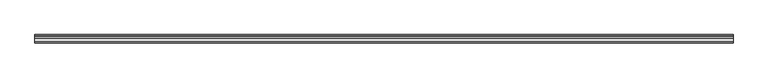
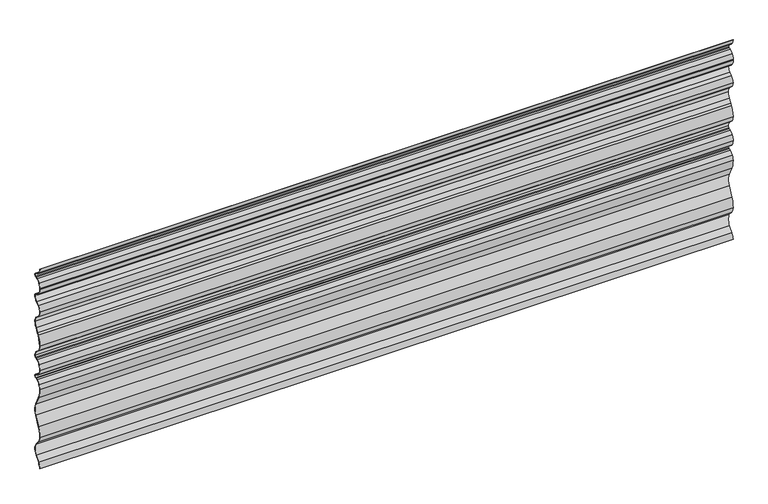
"""IFC4 building model written with IfcOpenShell, lengths in millimetres: plate geometry, Ritmica Horizontal 928 : Ritmica Horizontal 928."""

from ifc_helpers import new_model, si_unit, frame, origin, place, context, project, spatial, polyline, circle_curve, source, transform, mapped, element, save
from ifc_brep_helpers import plane_surface, cylinder_surface, revolved_surface, advanced_brep


def plate_e83ec595(model_context):
    return source(origin(), model_context, "Body", "AdvancedBrep", [
        advanced_brep(
        [(-1524.5, 6.5092615, 908.0620129), (-1524.5, 21.2621067, 895.6153968), (-1524.5, 28.45755, 892.7364297), (-1524.5, 31.9226364, 891.0770661), (-1524.5, 31.9284533, 875.0954695), (-1524.5, 28.4645758, 873.4335839), (-1524.5, 21.2712303, 870.5493796), (-1524.5, 6.5274495, 858.0920274), (-1524.5, 0.7421798, 836.9983174), (-1524.5, 0.7421798, 831.6596456), (-1524.5, 6.5447465, 810.5701527), (-1524.5, 21.2975918, 798.1235366), (-1524.5, 28.493035, 795.2445695), (-1524.5, 31.9581214, 793.5852059), (-1524.5, 36.9921573, 785.5962388), (-1524.5, 24.9656186, 760.6206134), (-1524.5, 12.9828956, 751.0704574), (-1524.5, 1.0048783, 728.5919745), (-1524.5, 13.0090533, 701.127971), (-1524.5, 24.9992939, 690.0241978), (-1524.5, 37.0440106, 665.0573339), (-1524.5, 28.6299997, 638.3240963), (-1524.5, 17.4991449, 620.9910926), (-1524.5, 13.1043036, 613.5575548), (-1524.5, 0.921776, 569.3793833), (-1524.5, 12.9259511, 541.9153798), (-1524.5, 24.9161915, 530.8116067), (-1524.5, 36.9609087, 505.8415328), (-1524.5, 31.9326896, 497.8521133), (-1524.5, 28.4688119, 496.1902275), (-1524.5, 21.2754341, 493.3060102), (-1524.5, 6.5316868, 480.8486726), (-1524.5, 0.8337564, 457.0856569), (-1524.5, 6.3430179, 437.5469103), (-1524.5, 21.0958632, 425.1002943), (-1524.5, 28.2913064, 422.2213272), (-1524.5, 31.7563928, 420.5619636), (-1524.5, 31.7622098, 404.580367), (-1524.5, 28.2983323, 402.9184814), (-1524.5, 21.1049867, 400.034277), (-1524.5, 6.361206, 387.5769248), (-1524.5, 0.8661693, 368.0341733), (-1524.5, 10.0476711, 324.2892209), (-1524.5, 30.4443377, 283.7581494), (-1524.5, 30.4639577, 229.8542794), (-1524.5, 10.0968014, 189.3083707), (-1524.5, 0.9471466, 145.5567461), (-1524.5, 9.5590077, 121.7925982), (-1524.5, 28.254799, 99.3683726), (-1524.5, 28.274038, 46.5109184), (-1524.5, 9.5945757, 23.7707747), (-1524.5, 1.0000163, 0.0), (-1524.5, 1.63e-05, 0.0), (-1524.5, 8.826039, 24.4105804), (-1524.5, 27.4885473, 47.1303588), (-1524.5, 27.4697594, 98.7483605), (-1524.5, 8.790937, 121.1522332), (-1524.5, -0.0528427, 145.5386154), (-1524.5, 9.1993025, 189.7494732), (-1524.5, 29.5703625, 230.3031531), (-1524.5, 29.5510695, 283.3086253), (-1524.5, 9.1504935, 323.8474651), (-1524.5, -0.133833, 368.0515751), (-1524.5, 5.5079347, 388.0983921), (-1524.5, 20.7330524, 400.9625361), (-1524.5, 27.895533, 403.834365), (-1524.5, 31.3296428, 405.4819688), (-1524.5, 31.3244823, 419.6600471), (-1524.5, 27.889174, 421.3051505), (-1524.5, 20.7246046, 424.1717647), (-1524.5, 5.4901265, 437.024822), (-1524.5, -0.1662181, 457.0529178), (-1524.5, 5.6750593, 481.3646468), (-1524.5, 20.9034647, 494.2342551), (-1524.5, 28.0660127, 497.1061111), (-1524.5, 31.5001226, 498.7537151), (-1524.5, 35.9609087, 505.841531), (-1524.5, 24.2645169, 530.052163), (-1524.5, 12.2464871, 541.1816709), (-1524.5, -0.0782183, 569.3680226), (-1524.5, 12.2502128, 614.0778463), (-1524.5, 16.6477304, 621.5159109), (-1524.5, 27.7982686, 638.8795656), (-1524.5, 36.04401, 665.0587755), (-1524.5, 24.3475224, 689.2648438), (-1524.5, 12.3295893, 700.3942621), (-1524.5, 0.0048783, 728.5916105), (-1524.5, 12.391292, 751.8777021), (-1524.5, 24.342358, 761.4026277), (-1524.5, 35.9921573, 785.5958749), (-1524.5, 31.5262109, 792.6832895), (-1524.5, 28.0909026, 794.3283929), (-1524.5, 20.9248539, 797.1955989), (-1524.5, 5.6893168, 810.0521734), (-1524.5, -0.2558769, 831.6592816), (-1524.5, -0.2578202, 836.9981365), (-1524.5, 5.6708241, 858.6080051), (-1524.5, 20.8992959, 871.4776387), (-1524.5, 28.0617766, 874.3494676), (-1524.5, 31.4958863, 875.9970713), (-1524.5, 31.4907258, 890.1751497), (-1524.5, 28.0554176, 891.8202531), (-1524.5, 20.8908482, 894.6868673), (-1524.5, 5.6563701, 907.5399245), (-1524.5, 0.0, 927.600395), (-1524.5, 1.0000001, 927.600395), (1524.5, 6.5092615, 908.0620129), (1524.5, 1.0000001, 927.600395), (1524.5, 0.0, 927.600395), (1524.5, 5.6563701, 907.5399245), (1524.5, 20.8908482, 894.6868673), (1524.5, 28.0554176, 891.8202531), (1524.5, 31.4907258, 890.1751497), (1524.5, 31.4958863, 875.9970713), (1524.5, 28.0617766, 874.3494676), (1524.5, 20.8992959, 871.4776387), (1524.5, 5.6708241, 858.6080051), (1524.5, -0.2578202, 836.9981365), (1524.5, -0.2578202, 831.6596456), (1524.5, 5.6893168, 810.0521734), (1524.5, 20.9248539, 797.1955989), (1524.5, 28.0909026, 794.3283929), (1524.5, 31.5262109, 792.6832895), (1524.5, 35.9921573, 785.5958749), (1524.5, 24.342358, 761.4026277), (1524.5, 12.391292, 751.8777021), (1524.5, 0.0048783, 728.5916105), (1524.5, 12.3295893, 700.3942621), (1524.5, 24.3475224, 689.2648438), (1524.5, 36.04401, 665.0587755), (1524.5, 27.7982686, 638.8795656), (1524.5, 16.6477304, 621.5159109), (1524.5, 12.2502128, 614.0778463), (1524.5, -0.0782183, 569.3680226), (1524.5, 12.2464871, 541.1816709), (1524.5, 24.2645169, 530.052163), (1524.5, 35.9609087, 505.841531), (1524.5, 31.5001226, 498.7537151), (1524.5, 28.0660127, 497.1061111), (1524.5, 20.9034647, 494.2342551), (1524.5, 5.6750593, 481.3646468), (1524.5, -0.1662181, 457.0529178), (1524.5, 5.4901265, 437.024822), (1524.5, 20.7246046, 424.1717647), (1524.5, 27.889174, 421.3051505), (1524.5, 31.3244823, 419.6600471), (1524.5, 31.3296428, 405.4819688), (1524.5, 27.895533, 403.834365), (1524.5, 20.7330524, 400.9625361), (1524.5, 5.5079347, 388.0983921), (1524.5, -0.133833, 368.0515751), (1524.5, 9.1504935, 323.8474651), (1524.5, 29.5510695, 283.3086253), (1524.5, 29.5703625, 230.3031531), (1524.5, 9.1993025, 189.7494732), (1524.5, -0.0528427, 145.5386154), (1524.5, 8.790937, 121.1522332), (1524.5, 27.4697594, 98.7483605), (1524.5, 27.4885473, 47.1303588), (1524.5, 8.826039, 24.4105804), (1524.5, 1.63e-05, 0.0), (1524.5, 1.0000163, 0.0), (1524.5, 9.5945757, 23.7707747), (1524.5, 28.274038, 46.5109184), (1524.5, 28.254799, 99.3683726), (1524.5, 9.5590077, 121.7925982), (1524.5, 0.9471466, 145.5567461), (1524.5, 10.0968014, 189.3083707), (1524.5, 30.4639577, 229.8542794), (1524.5, 30.4443377, 283.7581494), (1524.5, 10.0476711, 324.2892209), (1524.5, 0.8661693, 368.0341733), (1524.5, 6.361206, 387.5769248), (1524.5, 21.1049867, 400.034277), (1524.5, 28.2983323, 402.9184814), (1524.5, 31.7622098, 404.580367), (1524.5, 31.7563928, 420.5619636), (1524.5, 28.2913064, 422.2213272), (1524.5, 21.0958632, 425.1002943), (1524.5, 6.3430179, 437.5469103), (1524.5, 0.8337564, 457.0856569), (1524.5, 6.5316868, 480.8486726), (1524.5, 21.2754341, 493.3060102), (1524.5, 28.4688119, 496.1902275), (1524.5, 31.9326896, 497.8521133), (1524.5, 36.9609087, 505.8415328), (1524.5, 24.9161915, 530.8116067), (1524.5, 12.9259511, 541.9153798), (1524.5, 0.921776, 569.3793833), (1524.5, 13.1043036, 613.5575548), (1524.5, 17.4991449, 620.9910926), (1524.5, 28.6299997, 638.3240963), (1524.5, 37.0440106, 665.0573339), (1524.5, 24.9992939, 690.0241978), (1524.5, 13.0090533, 701.127971), (1524.5, 1.0048783, 728.5919745), (1524.5, 12.9828956, 751.0704574), (1524.5, 24.9656186, 760.6206134), (1524.5, 36.9921573, 785.5962388), (1524.5, 31.9581214, 793.5852059), (1524.5, 28.493035, 795.2445695), (1524.5, 21.2975918, 798.1235366), (1524.5, 6.5447465, 810.5701527), (1524.5, 0.744123, 831.6596456), (1524.5, 0.7421798, 836.9983174), (1524.5, 6.5274495, 858.0920274), (1524.5, 21.2712303, 870.5493796), (1524.5, 28.4645758, 873.4335839), (1524.5, 31.9284533, 875.0954695), (1524.5, 31.9226364, 891.0770661), (1524.5, 28.45755, 892.7364297), (1524.5, 21.2621067, 895.6153968)],
        [
            (0, 1, circle_curve(frame((-1524.5, 32.6219637, 924.0466233), z_axis=(1.0, 0.0, 0.0), x_axis=(0.0, 0.0, 1.0)), 30.6166783)),
            (1, 2),
            (2, 3),
            (3, 4, circle_curve(frame((-1524.5, 28.0953282, 883.0848737), z_axis=(-1.0, 0.0, 0.0), x_axis=(0.0, 0.0, 1.0)), 8.8613445)),
            (4, 5),
            (5, 6),
            (6, 7, circle_curve(frame((-1524.5, 32.651781, 842.1264302), z_axis=(1.0, 0.0, 0.0), x_axis=(0.0, 0.0, 1.0)), 30.6166783)),
            (7, 8, circle_curve(frame((-1524.5, 42.034972, 837.0133472), z_axis=(1.0, 0.0, 0.0), x_axis=(0.0, 0.0, 1.0)), 41.2927949)),
            (8, 9),
            (9, 10, circle_curve(frame((-1524.5, 42.0369151, 831.6746753), z_axis=(1.0, 0.0, 0.0), x_axis=(0.0, 0.0, 1.0)), 41.2927949)),
            (10, 11, circle_curve(frame((-1524.5, 32.8606059, 826.7955631), z_axis=(1.0, 0.0, 0.0), x_axis=(0.0, 0.0, 1.0)), 30.9158276)),
            (11, 12),
            (12, 13),
            (13, 14, circle_curve(frame((-1524.5, 28.1308133, 785.5930135), z_axis=(-1.0, 0.0, 0.0), x_axis=(0.0, 0.0, 1.0)), 8.8613445)),
            (14, 15, circle_curve(frame((-1524.5, 5.0694602, 785.5846196), z_axis=(-1.0, 0.0, 0.0), x_axis=(0.0, 0.0, 1.0)), 31.9226992)),
            (15, 16),
            (16, 17, circle_curve(frame((-1524.5, 28.0674647, 728.6018247), z_axis=(1.0, 0.0, 0.0), x_axis=(0.0, 0.0, 1.0)), 27.0625882)),
            (17, 18, circle_curve(frame((-1524.5, 38.4552002, 728.6056057), z_axis=(1.0, 0.0, 0.0), x_axis=(0.0, 0.0, 1.0)), 37.4503244)),
            (18, 19),
            (19, 20, circle_curve(frame((-1524.5, 5.1213136, 665.0457146), z_axis=(-1.0, 0.0, 0.0), x_axis=(0.0, 0.0, 1.0)), 31.9226992)),
            (20, 21, circle_curve(frame((-1524.5, -10.1198118, 665.2109304), z_axis=(-1.0, 0.0, 0.0), x_axis=(0.0, 0.0, 1.0)), 47.1640725)),
            (21, 22),
            (22, 23),
            (23, 24, circle_curve(frame((-1524.5, 80.6713796, 571.1565204), z_axis=(1.0, 0.0, 0.0), x_axis=(0.0, 0.0, 1.0)), 79.769402)),
            (24, 25, circle_curve(frame((-1524.5, 38.372098, 569.3930144), z_axis=(1.0, 0.0, 0.0), x_axis=(0.0, 0.0, 1.0)), 37.4503244)),
            (25, 26),
            (26, 27, circle_curve(frame((-1524.5, 5.0555271, 505.8414768), z_axis=(-1.0, 0.0, 0.0), x_axis=(0.0, 0.0, 1.0)), 31.9053816)),
            (27, 28, circle_curve(frame((-1524.5, 28.0995643, 505.8415173), z_axis=(-1.0, 0.0, 0.0), x_axis=(0.0, 0.0, 1.0)), 8.8613444)),
            (28, 29),
            (29, 30),
            (30, 31, circle_curve(frame((-1524.5, 32.6560172, 464.8830737), z_axis=(1.0, 0.0, 0.0), x_axis=(0.0, 0.0, 1.0)), 30.6166783)),
            (31, 32, circle_curve(frame((-1524.5, 42.0392082, 459.7699907), z_axis=(1.0, 0.0, 0.0), x_axis=(0.0, 0.0, 1.0)), 41.2927948)),
            (32, 33, circle_curve(frame((-1524.5, 38.2840783, 457.0992876), z_axis=(1.0, 0.0, 0.0), x_axis=(0.0, 0.0, 1.0)), 37.4503244)),
            (33, 34, circle_curve(frame((-1524.5, 32.4557202, 453.5315208), z_axis=(1.0, 0.0, 0.0), x_axis=(0.0, 0.0, 1.0)), 30.6166783)),
            (34, 35),
            (35, 36),
            (36, 37, circle_curve(frame((-1524.5, 27.9290847, 412.5697711), z_axis=(-1.0, 0.0, 0.0), x_axis=(0.0, 0.0, 1.0)), 8.8613445)),
            (37, 38),
            (38, 39),
            (39, 40, circle_curve(frame((-1524.5, 32.4855375, 371.6113276), z_axis=(1.0, 0.0, 0.0), x_axis=(0.0, 0.0, 1.0)), 30.6166783)),
            (40, 41, circle_curve(frame((-1524.5, 38.3164913, 368.0478045), z_axis=(1.0, 0.0, 0.0), x_axis=(0.0, 0.0, 1.0)), 37.4503244)),
            (41, 42, circle_curve(frame((-1524.5, 94.1023268, 364.7672254), z_axis=(1.0, 0.0, 0.0), x_axis=(0.0, 0.0, 1.0)), 93.293376)),
            (42, 43),
            (43, 44, circle_curve(frame((-1524.5, -23.1517542, 256.7867029), z_axis=(-1.0, 0.0, 0.0), x_axis=(0.0, 0.0, 1.0)), 60.0)),
            (44, 45),
            (45, 46, circle_curve(frame((-1524.5, 94.1809012, 148.8915653), z_axis=(1.0, 0.0, 0.0), x_axis=(0.0, 0.0, 1.0)), 93.293376)),
            (46, 47, circle_curve(frame((-1524.5, 38.0785645, 145.5702612), z_axis=(1.0, 0.0, 0.0), x_axis=(0.0, 0.0, 1.0)), 37.1314203)),
            (47, 48),
            (48, 49, circle_curve(frame((-1524.5, -7.0897542, 72.9267773), z_axis=(-1.0, 0.0, 0.0), x_axis=(0.0, 0.0, 1.0)), 44.1406321)),
            (49, 50),
            (50, 51, circle_curve(frame((-1524.5, 38.131434, 0.0138791), z_axis=(1.0, 0.0, 0.0), x_axis=(0.0, 0.0, 1.0)), 37.1314203)),
            (51, 52),
            (52, 53, circle_curve(frame((-1524.5, 38.131434, 0.0138791), z_axis=(-1.0, 0.0, 0.0), x_axis=(0.0, 0.0, 1.0)), 38.1314203)),
            (53, 54),
            (54, 55, circle_curve(frame((-1524.5, -7.0897542, 72.9267773), z_axis=(1.0, 0.0, 0.0), x_axis=(0.0, 0.0, 1.0)), 43.1406321)),
            (55, 56),
            (56, 57, circle_curve(frame((-1524.5, 38.0785645, 145.5702612), z_axis=(-1.0, 0.0, 0.0), x_axis=(0.0, 0.0, 1.0)), 38.1314203)),
            (57, 58, circle_curve(frame((-1524.5, 94.1809012, 148.8915653), z_axis=(-1.0, 0.0, 0.0), x_axis=(0.0, 0.0, 1.0)), 94.293376)),
            (58, 59),
            (59, 60, circle_curve(frame((-1524.5, -23.1517542, 256.7867029), z_axis=(1.0, 0.0, 0.0), x_axis=(0.0, 0.0, 1.0)), 59.0)),
            (60, 61),
            (61, 62, circle_curve(frame((-1524.5, 94.1023268, 364.7672254), z_axis=(-1.0, 0.0, 0.0), x_axis=(0.0, 0.0, 1.0)), 94.293376)),
            (62, 63, circle_curve(frame((-1524.5, 38.3164913, 368.0478045), z_axis=(-1.0, 0.0, 0.0), x_axis=(0.0, 0.0, 1.0)), 38.4503244)),
            (63, 64, circle_curve(frame((-1524.5, 32.4855375, 371.6113276), z_axis=(-1.0, 0.0, 0.0), x_axis=(0.0, 0.0, 1.0)), 31.6166783)),
            (64, 65),
            (65, 66),
            (66, 67, circle_curve(frame((-1524.5, 27.9290847, 412.5697711), z_axis=(1.0, 0.0, 0.0), x_axis=(0.0, 0.0, 1.0)), 7.8613445)),
            (67, 68),
            (68, 69),
            (69, 70, circle_curve(frame((-1524.5, 32.4557202, 453.5315208), z_axis=(-1.0, 0.0, 0.0), x_axis=(0.0, 0.0, 1.0)), 31.6166783)),
            (70, 71, circle_curve(frame((-1524.5, 38.2840783, 457.0992876), z_axis=(-1.0, 0.0, 0.0), x_axis=(0.0, 0.0, 1.0)), 38.4503244)),
            (71, 72, circle_curve(frame((-1524.5, 42.0392082, 459.7699907), z_axis=(-1.0, 0.0, 0.0), x_axis=(0.0, 0.0, 1.0)), 42.2927948)),
            (72, 73, circle_curve(frame((-1524.5, 32.6560172, 464.8830737), z_axis=(-1.0, 0.0, 0.0), x_axis=(0.0, 0.0, 1.0)), 31.6166782)),
            (73, 74),
            (74, 75),
            (75, 76, circle_curve(frame((-1524.5, 28.0995643, 505.8415173), z_axis=(1.0, 0.0, 0.0), x_axis=(0.0, 0.0, 1.0)), 7.8613444)),
            (76, 77, circle_curve(frame((-1524.5, 5.0555271, 505.8414768), z_axis=(1.0, 0.0, 0.0), x_axis=(0.0, 0.0, 1.0)), 30.9053816)),
            (77, 78),
            (78, 79, circle_curve(frame((-1524.5, 38.372098, 569.3930144), z_axis=(-1.0, 0.0, 0.0), x_axis=(0.0, 0.0, 1.0)), 38.4503244)),
            (79, 80, circle_curve(frame((-1524.5, 80.6713796, 571.1565204), z_axis=(-1.0, 0.0, 0.0), x_axis=(0.0, 0.0, 1.0)), 80.769402)),
            (80, 81),
            (81, 82),
            (82, 83, circle_curve(frame((-1524.5, -10.1198118, 665.2109304), z_axis=(1.0, 0.0, 0.0), x_axis=(0.0, 0.0, 1.0)), 46.1640725)),
            (83, 84, circle_curve(frame((-1524.5, 5.1213136, 665.0457146), z_axis=(1.0, 0.0, 0.0), x_axis=(0.0, 0.0, 1.0)), 30.9226992)),
            (84, 85),
            (85, 86, circle_curve(frame((-1524.5, 38.4552002, 728.6056057), z_axis=(-1.0, 0.0, 0.0), x_axis=(0.0, 0.0, 1.0)), 38.4503244)),
            (86, 87, circle_curve(frame((-1524.5, 28.0674647, 728.6018247), z_axis=(-1.0, 0.0, 0.0), x_axis=(0.0, 0.0, 1.0)), 28.0625882)),
            (87, 88),
            (88, 89, circle_curve(frame((-1524.5, 5.0694602, 785.5846196), z_axis=(1.0, 0.0, 0.0), x_axis=(0.0, 0.0, 1.0)), 30.9226992)),
            (89, 90, circle_curve(frame((-1524.5, 28.1308133, 785.5930135), z_axis=(1.0, 0.0, 0.0), x_axis=(0.0, 0.0, 1.0)), 7.8613445)),
            (90, 91),
            (91, 92),
            (92, 93, circle_curve(frame((-1524.5, 32.8606059, 826.7955631), z_axis=(-1.0, 0.0, 0.0), x_axis=(0.0, 0.0, 1.0)), 31.9158276)),
            (93, 94, circle_curve(frame((-1524.5, 42.0369151, 831.6746753), z_axis=(-1.0, 0.0, 0.0), x_axis=(0.0, 0.0, 1.0)), 42.2927949)),
            (94, 95),
            (95, 96, circle_curve(frame((-1524.5, 42.034972, 837.0133472), z_axis=(-1.0, 0.0, 0.0), x_axis=(0.0, 0.0, 1.0)), 42.2927949)),
            (96, 97, circle_curve(frame((-1524.5, 32.651781, 842.1264302), z_axis=(-1.0, 0.0, 0.0), x_axis=(0.0, 0.0, 1.0)), 31.6166783)),
            (97, 98),
            (98, 99),
            (99, 100, circle_curve(frame((-1524.5, 28.0953282, 883.0848737), z_axis=(1.0, 0.0, 0.0), x_axis=(0.0, 0.0, 1.0)), 7.8613445)),
            (100, 101),
            (101, 102),
            (102, 103, circle_curve(frame((-1524.5, 32.6219637, 924.0466233), z_axis=(-1.0, 0.0, 0.0), x_axis=(0.0, 0.0, 1.0)), 31.6166783)),
            (103, 104, circle_curve(frame((-1524.5, 38.4503219, 927.6143902), z_axis=(-1.0, 0.0, 0.0), x_axis=(0.0, 0.0, 1.0)), 38.4503244)),
            (104, 105),
            (105, 0, circle_curve(frame((-1524.5, 38.4503219, 927.6143902), z_axis=(1.0, 0.0, 0.0), x_axis=(0.0, 0.0, 1.0)), 37.4503244)),
            (106, 107, circle_curve(frame((1524.5, 38.4503219, 927.6143902), z_axis=(-1.0, 0.0, 0.0), x_axis=(0.0, 0.0, 1.0)), 37.4503244)),
            (107, 108),
            (108, 109, circle_curve(frame((1524.5, 38.4503219, 927.6143902), z_axis=(1.0, 0.0, 0.0), x_axis=(0.0, 0.0, 1.0)), 38.4503244)),
            (109, 110, circle_curve(frame((1524.5, 32.6219637, 924.0466233), z_axis=(1.0, 0.0, 0.0), x_axis=(0.0, 0.0, 1.0)), 31.6166783)),
            (110, 111),
            (111, 112),
            (112, 113, circle_curve(frame((1524.5, 28.0953282, 883.0848737), z_axis=(-1.0, 0.0, 0.0), x_axis=(0.0, 0.0, 1.0)), 7.8613445)),
            (113, 114),
            (114, 115),
            (115, 116, circle_curve(frame((1524.5, 32.651781, 842.1264302), z_axis=(1.0, 0.0, 0.0), x_axis=(0.0, 0.0, 1.0)), 31.6166783)),
            (116, 117, circle_curve(frame((1524.5, 42.034972, 837.0133472), z_axis=(1.0, 0.0, 0.0), x_axis=(0.0, 0.0, 1.0)), 42.2927949)),
            (117, 118),
            (118, 119, circle_curve(frame((1524.5, 42.0369151, 831.6746753), z_axis=(1.0, 0.0, 0.0), x_axis=(0.0, 0.0, 1.0)), 42.2927949)),
            (119, 120, circle_curve(frame((1524.5, 32.8606059, 826.7955631), z_axis=(1.0, 0.0, 0.0), x_axis=(0.0, 0.0, 1.0)), 31.9158276)),
            (120, 121),
            (121, 122),
            (122, 123, circle_curve(frame((1524.5, 28.1308133, 785.5930135), z_axis=(-1.0, 0.0, 0.0), x_axis=(0.0, 0.0, 1.0)), 7.8613445)),
            (123, 124, circle_curve(frame((1524.5, 5.0694602, 785.5846196), z_axis=(-1.0, 0.0, 0.0), x_axis=(0.0, 0.0, 1.0)), 30.9226992)),
            (124, 125),
            (125, 126, circle_curve(frame((1524.5, 28.0674647, 728.6018247), z_axis=(1.0, 0.0, 0.0), x_axis=(0.0, 0.0, 1.0)), 28.0625882)),
            (126, 127, circle_curve(frame((1524.5, 38.4552002, 728.6056057), z_axis=(1.0, 0.0, 0.0), x_axis=(0.0, 0.0, 1.0)), 38.4503244)),
            (127, 128),
            (128, 129, circle_curve(frame((1524.5, 5.1213136, 665.0457146), z_axis=(-1.0, 0.0, 0.0), x_axis=(0.0, 0.0, 1.0)), 30.9226992)),
            (129, 130, circle_curve(frame((1524.5, -10.1198118, 665.2109304), z_axis=(-1.0, 0.0, 0.0), x_axis=(0.0, 0.0, 1.0)), 46.1640725)),
            (130, 131),
            (131, 132),
            (132, 133, circle_curve(frame((1524.5, 80.6713796, 571.1565204), z_axis=(1.0, 0.0, 0.0), x_axis=(0.0, 0.0, 1.0)), 80.769402)),
            (133, 134, circle_curve(frame((1524.5, 38.372098, 569.3930144), z_axis=(1.0, 0.0, 0.0), x_axis=(0.0, 0.0, 1.0)), 38.4503244)),
            (134, 135),
            (135, 136, circle_curve(frame((1524.5, 5.0555271, 505.8414768), z_axis=(-1.0, 0.0, 0.0), x_axis=(0.0, 0.0, 1.0)), 30.9053816)),
            (136, 137, circle_curve(frame((1524.5, 28.0995643, 505.8415173), z_axis=(-1.0, 0.0, 0.0), x_axis=(0.0, 0.0, 1.0)), 7.8613444)),
            (137, 138),
            (138, 139),
            (139, 140, circle_curve(frame((1524.5, 32.6560172, 464.8830737), z_axis=(1.0, 0.0, 0.0), x_axis=(0.0, 0.0, 1.0)), 31.6166782)),
            (140, 141, circle_curve(frame((1524.5, 42.0392082, 459.7699907), z_axis=(1.0, 0.0, 0.0), x_axis=(0.0, 0.0, 1.0)), 42.2927948)),
            (141, 142, circle_curve(frame((1524.5, 38.2840783, 457.0992876), z_axis=(1.0, 0.0, 0.0), x_axis=(0.0, 0.0, 1.0)), 38.4503244)),
            (142, 143, circle_curve(frame((1524.5, 32.4557202, 453.5315208), z_axis=(1.0, 0.0, 0.0), x_axis=(0.0, 0.0, 1.0)), 31.6166783)),
            (143, 144),
            (144, 145),
            (145, 146, circle_curve(frame((1524.5, 27.9290847, 412.5697711), z_axis=(-1.0, 0.0, 0.0), x_axis=(0.0, 0.0, 1.0)), 7.8613445)),
            (146, 147),
            (147, 148),
            (148, 149, circle_curve(frame((1524.5, 32.4855375, 371.6113276), z_axis=(1.0, 0.0, 0.0), x_axis=(0.0, 0.0, 1.0)), 31.6166783)),
            (149, 150, circle_curve(frame((1524.5, 38.3164913, 368.0478045), z_axis=(1.0, 0.0, 0.0), x_axis=(0.0, 0.0, 1.0)), 38.4503244)),
            (150, 151, circle_curve(frame((1524.5, 94.1023268, 364.7672254), z_axis=(1.0, 0.0, 0.0), x_axis=(0.0, 0.0, 1.0)), 94.293376)),
            (151, 152),
            (152, 153, circle_curve(frame((1524.5, -23.1517542, 256.7867029), z_axis=(-1.0, 0.0, 0.0), x_axis=(0.0, 0.0, 1.0)), 59.0)),
            (153, 154),
            (154, 155, circle_curve(frame((1524.5, 94.1809012, 148.8915653), z_axis=(1.0, 0.0, 0.0), x_axis=(0.0, 0.0, 1.0)), 94.293376)),
            (155, 156, circle_curve(frame((1524.5, 38.0785645, 145.5702612), z_axis=(1.0, 0.0, 0.0), x_axis=(0.0, 0.0, 1.0)), 38.1314203)),
            (156, 157),
            (157, 158, circle_curve(frame((1524.5, -7.0897542, 72.9267773), z_axis=(-1.0, 0.0, 0.0), x_axis=(0.0, 0.0, 1.0)), 43.1406321)),
            (158, 159),
            (159, 160, circle_curve(frame((1524.5, 38.131434, 0.0138791), z_axis=(1.0, 0.0, 0.0), x_axis=(0.0, 0.0, 1.0)), 38.1314203)),
            (160, 161),
            (161, 162, circle_curve(frame((1524.5, 38.131434, 0.0138791), z_axis=(-1.0, 0.0, 0.0), x_axis=(0.0, 0.0, 1.0)), 37.1314203)),
            (162, 163),
            (163, 164, circle_curve(frame((1524.5, -7.0897542, 72.9267773), z_axis=(1.0, 0.0, 0.0), x_axis=(0.0, 0.0, 1.0)), 44.1406321)),
            (164, 165),
            (165, 166, circle_curve(frame((1524.5, 38.0785645, 145.5702612), z_axis=(-1.0, 0.0, 0.0), x_axis=(0.0, 0.0, 1.0)), 37.1314203)),
            (166, 167, circle_curve(frame((1524.5, 94.1809012, 148.8915653), z_axis=(-1.0, 0.0, 0.0), x_axis=(0.0, 0.0, 1.0)), 93.293376)),
            (167, 168),
            (168, 169, circle_curve(frame((1524.5, -23.1517542, 256.7867029), z_axis=(1.0, 0.0, 0.0), x_axis=(0.0, 0.0, 1.0)), 60.0)),
            (169, 170),
            (170, 171, circle_curve(frame((1524.5, 94.1023268, 364.7672254), z_axis=(-1.0, 0.0, 0.0), x_axis=(0.0, 0.0, 1.0)), 93.293376)),
            (171, 172, circle_curve(frame((1524.5, 38.3164913, 368.0478045), z_axis=(-1.0, 0.0, 0.0), x_axis=(0.0, 0.0, 1.0)), 37.4503244)),
            (172, 173, circle_curve(frame((1524.5, 32.4855375, 371.6113276), z_axis=(-1.0, 0.0, 0.0), x_axis=(0.0, 0.0, 1.0)), 30.6166783)),
            (173, 174),
            (174, 175),
            (175, 176, circle_curve(frame((1524.5, 27.9290847, 412.5697711), z_axis=(1.0, 0.0, 0.0), x_axis=(0.0, 0.0, 1.0)), 8.8613445)),
            (176, 177),
            (177, 178),
            (178, 179, circle_curve(frame((1524.5, 32.4557202, 453.5315208), z_axis=(-1.0, 0.0, 0.0), x_axis=(0.0, 0.0, 1.0)), 30.6166783)),
            (179, 180, circle_curve(frame((1524.5, 38.2840783, 457.0992876), z_axis=(-1.0, 0.0, 0.0), x_axis=(0.0, 0.0, 1.0)), 37.4503244)),
            (180, 181, circle_curve(frame((1524.5, 42.0392082, 459.7699907), z_axis=(-1.0, 0.0, 0.0), x_axis=(0.0, 0.0, 1.0)), 41.2927948)),
            (181, 182, circle_curve(frame((1524.5, 32.6560172, 464.8830737), z_axis=(-1.0, 0.0, 0.0), x_axis=(0.0, 0.0, 1.0)), 30.6166783)),
            (182, 183),
            (183, 184),
            (184, 185, circle_curve(frame((1524.5, 28.0995643, 505.8415173), z_axis=(1.0, 0.0, 0.0), x_axis=(0.0, 0.0, 1.0)), 8.8613444)),
            (185, 186, circle_curve(frame((1524.5, 5.0555271, 505.8414768), z_axis=(1.0, 0.0, 0.0), x_axis=(0.0, 0.0, 1.0)), 31.9053816)),
            (186, 187),
            (187, 188, circle_curve(frame((1524.5, 38.372098, 569.3930144), z_axis=(-1.0, 0.0, 0.0), x_axis=(0.0, 0.0, 1.0)), 37.4503244)),
            (188, 189, circle_curve(frame((1524.5, 80.6713796, 571.1565204), z_axis=(-1.0, 0.0, 0.0), x_axis=(0.0, 0.0, 1.0)), 79.769402)),
            (189, 190),
            (190, 191),
            (191, 192, circle_curve(frame((1524.5, -10.1198118, 665.2109304), z_axis=(1.0, 0.0, 0.0), x_axis=(0.0, 0.0, 1.0)), 47.1640725)),
            (192, 193, circle_curve(frame((1524.5, 5.1213136, 665.0457146), z_axis=(1.0, 0.0, 0.0), x_axis=(0.0, 0.0, 1.0)), 31.9226992)),
            (193, 194),
            (194, 195, circle_curve(frame((1524.5, 38.4552002, 728.6056057), z_axis=(-1.0, 0.0, 0.0), x_axis=(0.0, 0.0, 1.0)), 37.4503244)),
            (195, 196, circle_curve(frame((1524.5, 28.0674647, 728.6018247), z_axis=(-1.0, 0.0, 0.0), x_axis=(0.0, 0.0, 1.0)), 27.0625882)),
            (196, 197),
            (197, 198, circle_curve(frame((1524.5, 5.0694602, 785.5846196), z_axis=(1.0, 0.0, 0.0), x_axis=(0.0, 0.0, 1.0)), 31.9226992)),
            (198, 199, circle_curve(frame((1524.5, 28.1308133, 785.5930135), z_axis=(1.0, 0.0, 0.0), x_axis=(0.0, 0.0, 1.0)), 8.8613445)),
            (199, 200),
            (200, 201),
            (201, 202, circle_curve(frame((1524.5, 32.8606059, 826.7955631), z_axis=(-1.0, 0.0, 0.0), x_axis=(0.0, 0.0, 1.0)), 30.9158276)),
            (202, 203, circle_curve(frame((1524.5, 42.0369151, 831.6746753), z_axis=(-1.0, 0.0, 0.0), x_axis=(0.0, 0.0, 1.0)), 41.2927949)),
            (203, 204),
            (204, 205, circle_curve(frame((1524.5, 42.034972, 837.0133472), z_axis=(-1.0, 0.0, 0.0), x_axis=(0.0, 0.0, 1.0)), 41.2927949)),
            (205, 206, circle_curve(frame((1524.5, 32.651781, 842.1264302), z_axis=(-1.0, 0.0, 0.0), x_axis=(0.0, 0.0, 1.0)), 30.6166783)),
            (206, 207),
            (207, 208),
            (208, 209, circle_curve(frame((1524.5, 28.0953282, 883.0848737), z_axis=(1.0, 0.0, 0.0), x_axis=(0.0, 0.0, 1.0)), 8.8613445)),
            (209, 210),
            (210, 211),
            (211, 106, circle_curve(frame((1524.5, 32.6219637, 924.0466233), z_axis=(-1.0, 0.0, 0.0), x_axis=(0.0, 0.0, 1.0)), 30.6166783)),
            (0, 106),
            (211, 1),
            (210, 2),
            (209, 3),
            (208, 4),
            (207, 5),
            (206, 6),
            (205, 7),
            (204, 8),
            (203, 9),
            (202, 10),
            (201, 11),
            (200, 12),
            (199, 13),
            (198, 14),
            (197, 15),
            (196, 16),
            (195, 17),
            (194, 18),
            (193, 19),
            (192, 20),
            (191, 21),
            (190, 22),
            (189, 23),
            (188, 24),
            (187, 25),
            (186, 26),
            (185, 27),
            (184, 28),
            (183, 29),
            (182, 30),
            (181, 31),
            (180, 32),
            (179, 33),
            (178, 34),
            (177, 35),
            (176, 36),
            (175, 37),
            (174, 38),
            (173, 39),
            (172, 40),
            (171, 41),
            (170, 42),
            (169, 43),
            (168, 44),
            (167, 45),
            (166, 46),
            (165, 47),
            (164, 48),
            (163, 49),
            (162, 50),
            (161, 51),
            (160, 52),
            (159, 53),
            (158, 54),
            (157, 55),
            (156, 56),
            (155, 57),
            (154, 58),
            (153, 59),
            (152, 60),
            (151, 61),
            (150, 62),
            (149, 63),
            (148, 64),
            (147, 65),
            (146, 66),
            (145, 67),
            (144, 68),
            (143, 69),
            (142, 70),
            (141, 71),
            (140, 72),
            (139, 73),
            (138, 74),
            (137, 75),
            (136, 76),
            (135, 77),
            (134, 78),
            (133, 79),
            (132, 80),
            (131, 81),
            (130, 82),
            (129, 83),
            (128, 84),
            (127, 85),
            (126, 86),
            (125, 87),
            (124, 88),
            (123, 89),
            (122, 90),
            (121, 91),
            (120, 92),
            (119, 93),
            (118, 94),
            (117, 95),
            (116, 96),
            (115, 97),
            (114, 98),
            (113, 99),
            (112, 100),
            (111, 101),
            (110, 102),
            (109, 103),
            (108, 104),
            (107, 105),
        ],
        [
            plane_surface(frame((-1524.5, 32.6219637, 954.6633016), z_axis=(-1.0, 0.0, 0.0), x_axis=(0.0, -1.0, 0.0))),
            plane_surface(frame((1524.5, 32.6219637, 954.6633016), z_axis=(1.0, 0.0, 0.0), x_axis=(0.0, 1.0, 0.0))),
            revolved_surface(polyline([(1524.5, 32.6219637, 954.6633016), (-1524.5, 32.6219637, 954.6633016)]), (1524.5, 32.6219637, 924.0466233), (1.0, 0.0, 0.0)),
            plane_surface(frame((-1524.5, 21.2621067, 895.6153968), z_axis=(0.0, 0.3714785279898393, 0.9284415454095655), x_axis=(1.0, 0.0, 0.0))),
            plane_surface(frame((-1524.5, 28.45755, 892.7364297), z_axis=(0.0, 0.43191054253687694, 0.9019164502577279), x_axis=(1.0, 0.0, 0.0))),
            cylinder_surface(frame((1524.5, 28.0953282, 883.0848737), z_axis=(-1.0, 0.0, 0.0), x_axis=(0.0, 0.0, 1.0)), 8.8613445),
            plane_surface(frame((-1524.5, 31.9284533, 875.0954695), z_axis=(0.0, 0.43256698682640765, -0.9016017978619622), x_axis=(1.0, 0.0, 0.0))),
            plane_surface(frame((-1524.5, 28.4645758, 873.4335839), z_axis=(0.0, 0.3721542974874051, -0.928170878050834), x_axis=(1.0, 0.0, 0.0))),
            revolved_surface(polyline([(1524.5, 32.651781, 872.7431085), (-1524.5, 32.651781, 872.7431085)]), (1524.5, 32.651781, 842.1264302), (1.0, 0.0, 0.0)),
            revolved_surface(polyline([(1524.5, 42.034972, 878.3061421), (-1524.5, 42.034972, 878.3061421)]), (1524.5, 42.034972, 837.0133472), (1.0, 0.0, 0.0)),
            plane_surface(frame((-1524.5, 0.7421798, 836.9983174), z_axis=(0.0, 1.0, 0.0), x_axis=(1.0, 0.0, 0.0))),
            revolved_surface(polyline([(1524.5, 42.0369151, 872.9674702), (-1524.5, 42.0369151, 872.9674702)]), (1524.5, 42.0369151, 831.6746753), (1.0, 0.0, 0.0)),
            revolved_surface(polyline([(1524.5, 32.8606059, 857.7113907), (-1524.5, 32.8606059, 857.7113907)]), (1524.5, 32.8606059, 826.7955631), (1.0, 0.0, 0.0)),
            plane_surface(frame((-1524.5, 21.2975918, 798.1235366), z_axis=(0.0, 0.3714785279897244, 0.9284415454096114), x_axis=(1.0, 0.0, 0.0))),
            plane_surface(frame((-1524.5, 28.493035, 795.2445695), z_axis=(0.0, 0.4319105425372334, 0.9019164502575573), x_axis=(1.0, 0.0, 0.0))),
            cylinder_surface(frame((1524.5, 28.1308133, 785.5930135), z_axis=(-1.0, 0.0, 0.0), x_axis=(0.0, 0.0, 1.0)), 8.8613445),
            cylinder_surface(frame((1524.5, 5.0694602, 785.5846196), z_axis=(-1.0, 0.0, 0.0), x_axis=(0.0, 0.0, 1.0)), 31.9226992),
            plane_surface(frame((-1524.5, 24.9656186, 760.6206134), z_axis=(0.0, 0.6232605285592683, -0.7820142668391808), x_axis=(1.0, 0.0, 0.0))),
            revolved_surface(polyline([(1524.5, 28.0674647, 755.6644129), (-1524.5, 28.0674647, 755.6644129)]), (1524.5, 28.0674647, 728.6018247), (1.0, 0.0, 0.0)),
            revolved_surface(polyline([(1524.5, 38.4552002, 766.0559301), (-1524.5, 38.4552002, 766.0559301)]), (1524.5, 38.4552002, 728.6056057), (1.0, 0.0, 0.0)),
            plane_surface(frame((-1524.5, 13.0090533, 701.127971), z_axis=(0.0, 0.6794639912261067, 0.7337088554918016), x_axis=(1.0, 0.0, 0.0))),
            cylinder_surface(frame((1524.5, 5.1213136, 665.0457146), z_axis=(-1.0, 0.0, 0.0), x_axis=(0.0, 0.0, 1.0)), 31.9226992),
            cylinder_surface(frame((1524.5, -10.1198118, 665.2109304), z_axis=(-1.0, 0.0, 0.0), x_axis=(0.0, 0.0, 1.0)), 47.1640725),
            plane_surface(frame((-1524.5, 28.6299997, 638.3240963), z_axis=(0.0, 0.8414387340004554, -0.5403525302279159), x_axis=(1.0, 0.0, 0.0))),
            plane_surface(frame((-1524.5, 17.4991449, 620.9910926), z_axis=(0.0, 0.8608100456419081, -0.5089263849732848), x_axis=(1.0, 0.0, 0.0))),
            revolved_surface(polyline([(1524.5, 80.6713796, 650.9259224), (-1524.5, 80.6713796, 650.9259224)]), (1524.5, 80.6713796, 571.1565204), (1.0, 0.0, 0.0)),
            revolved_surface(polyline([(1524.5, 38.372098, 606.8433388), (-1524.5, 38.372098, 606.8433388)]), (1524.5, 38.372098, 569.3930144), (1.0, 0.0, 0.0)),
            plane_surface(frame((-1524.5, 12.9259511, 541.9153798), z_axis=(0.0, 0.6794639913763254, 0.7337088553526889), x_axis=(1.0, 0.0, 0.0))),
            cylinder_surface(frame((1524.5, 5.0555271, 505.8414768), z_axis=(-1.0, 0.0, 0.0), x_axis=(0.0, 0.0, 1.0)), 31.9053816),
            cylinder_surface(frame((1524.5, 28.0995643, 505.8415173), z_axis=(-1.0, 0.0, 0.0), x_axis=(0.0, 0.0, 1.0)), 8.8613444),
            plane_surface(frame((-1524.5, 31.9326896, 497.8521133), z_axis=(0.0, 0.43256701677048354, -0.9016017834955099), x_axis=(1.0, 0.0, 0.0))),
            plane_surface(frame((-1524.5, 28.4688119, 496.1902275), z_axis=(0.0, 0.37215430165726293, -0.9281708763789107), x_axis=(1.0, 0.0, 0.0))),
            revolved_surface(polyline([(1524.5, 32.6560172, 495.499752), (-1524.5, 32.6560172, 495.499752)]), (1524.5, 32.6560172, 464.8830737), (1.0, 0.0, 0.0)),
            revolved_surface(polyline([(1524.5, 42.0392082, 501.0627855), (-1524.5, 42.0392082, 501.0627855)]), (1524.5, 42.0392082, 459.7699907), (1.0, 0.0, 0.0)),
            revolved_surface(polyline([(1524.5, 38.2840783, 494.549612), (-1524.5, 38.2840783, 494.549612)]), (1524.5, 38.2840783, 457.0992876), (1.0, 0.0, 0.0)),
            revolved_surface(polyline([(1524.5, 32.4557202, 484.1481991), (-1524.5, 32.4557202, 484.1481991)]), (1524.5, 32.4557202, 453.5315208), (1.0, 0.0, 0.0)),
            plane_surface(frame((-1524.5, 21.0958632, 425.1002943), z_axis=(0.0, 0.3714785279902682, 0.9284415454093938), x_axis=(1.0, 0.0, 0.0))),
            plane_surface(frame((-1524.5, 28.2913064, 422.2213272), z_axis=(0.0, 0.43191054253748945, 0.9019164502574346), x_axis=(1.0, 0.0, 0.0))),
            cylinder_surface(frame((1524.5, 27.9290847, 412.5697711), z_axis=(-1.0, 0.0, 0.0), x_axis=(0.0, 0.0, 1.0)), 8.8613445),
            plane_surface(frame((-1524.5, 31.7622098, 404.580367), z_axis=(0.0, 0.432566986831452, -0.901601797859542), x_axis=(1.0, 0.0, 0.0))),
            plane_surface(frame((-1524.5, 28.2983323, 402.9184814), z_axis=(0.0, 0.3721542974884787, -0.9281708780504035), x_axis=(1.0, 0.0, 0.0))),
            revolved_surface(polyline([(1524.5, 32.4855375, 402.22800589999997), (-1524.5, 32.4855375, 402.22800589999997)]), (1524.5, 32.4855375, 371.6113276), (1.0, 0.0, 0.0)),
            revolved_surface(polyline([(1524.5, 38.3164913, 405.4981289), (-1524.5, 38.3164913, 405.4981289)]), (1524.5, 38.3164913, 368.0478045), (1.0, 0.0, 0.0)),
            revolved_surface(polyline([(1524.5, 94.1023268, 458.0606014), (-1524.5, 94.1023268, 458.0606014)]), (1524.5, 94.1023268, 364.7672254), (1.0, 0.0, 0.0)),
            plane_surface(frame((-1524.5, 10.0476711, 324.2892209), z_axis=(0.0, 0.8932681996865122, 0.4495241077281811), x_axis=(1.0, 0.0, 0.0))),
            cylinder_surface(frame((1524.5, -23.1517542, 256.7867029), z_axis=(-1.0, 0.0, 0.0), x_axis=(0.0, 0.0, 1.0)), 60.0),
            plane_surface(frame((-1524.5, 30.4639577, 229.8542794), z_axis=(0.0, 0.8935951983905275, -0.44887372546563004), x_axis=(1.0, 0.0, 0.0))),
            revolved_surface(polyline([(1524.5, 94.1809012, 242.1849413), (-1524.5, 94.1809012, 242.1849413)]), (1524.5, 94.1809012, 148.8915653), (1.0, 0.0, 0.0)),
            revolved_surface(polyline([(1524.5, 38.0785645, 182.7016815), (-1524.5, 38.0785645, 182.7016815)]), (1524.5, 38.0785645, 145.5702612), (1.0, 0.0, 0.0)),
            plane_surface(frame((-1524.5, 9.5590077, 121.7925982), z_axis=(0.0, 0.768070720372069, 0.640365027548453), x_axis=(1.0, 0.0, 0.0))),
            cylinder_surface(frame((1524.5, -7.0897542, 72.9267773), z_axis=(-1.0, 0.0, 0.0), x_axis=(0.0, 0.0, 1.0)), 44.1406321),
            plane_surface(frame((-1524.5, 28.274038, 46.5109184), z_axis=(0.0, 0.7727252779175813, -0.6347406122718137), x_axis=(1.0, 0.0, 0.0))),
            revolved_surface(polyline([(1524.5, 38.131434, 37.1452994), (-1524.5, 38.131434, 37.1452994)]), (1524.5, 38.131434, 0.0138791), (1.0, 0.0, 0.0)),
            plane_surface(frame((-1524.5, 1.0000163, 0.0), z_axis=(0.0, 0.0, -1.0), x_axis=(1.0, 0.0, 0.0))),
            cylinder_surface(frame((1524.5, 38.131434, 0.0138791), z_axis=(-1.0, 0.0, 0.0), x_axis=(0.0, 0.0, 1.0)), 38.1314203),
            plane_surface(frame((-1524.5, 8.826039, 24.4105804), z_axis=(0.0, -0.772729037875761, 0.6347360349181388), x_axis=(1.0, 0.0, 0.0))),
            revolved_surface(polyline([(1524.5, -7.0897542, 116.0674094), (-1524.5, -7.0897542, 116.0674094)]), (1524.5, -7.0897542, 72.9267773), (1.0, 0.0, 0.0)),
            plane_surface(frame((-1524.5, 27.4697594, 98.7483605), z_axis=(0.0, -0.7680707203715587, -0.6403650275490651), x_axis=(1.0, 0.0, 0.0))),
            cylinder_surface(frame((1524.5, 38.0785645, 145.5702612), z_axis=(-1.0, 0.0, 0.0), x_axis=(0.0, 0.0, 1.0)), 38.1314203),
            cylinder_surface(frame((1524.5, 94.1809012, 148.8915653), z_axis=(-1.0, 0.0, 0.0), x_axis=(0.0, 0.0, 1.0)), 94.293376),
            plane_surface(frame((-1524.5, 9.1993025, 189.7494732), z_axis=(0.0, -0.893595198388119, 0.448873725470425), x_axis=(1.0, 0.0, 0.0))),
            revolved_surface(polyline([(1524.5, -23.1517542, 315.7867029), (-1524.5, -23.1517542, 315.7867029)]), (1524.5, -23.1517542, 256.7867029), (1.0, 0.0, 0.0)),
            plane_surface(frame((-1524.5, 29.5510695, 283.3086253), z_axis=(0.0, -0.8932681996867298, -0.4495241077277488), x_axis=(1.0, 0.0, 0.0))),
            cylinder_surface(frame((1524.5, 94.1023268, 364.7672254), z_axis=(-1.0, 0.0, 0.0), x_axis=(0.0, 0.0, 1.0)), 94.293376),
            cylinder_surface(frame((1524.5, 38.3164913, 368.0478045), z_axis=(-1.0, 0.0, 0.0), x_axis=(0.0, 0.0, 1.0)), 38.4503244),
            cylinder_surface(frame((1524.5, 32.4855375, 371.6113276), z_axis=(-1.0, 0.0, 0.0), x_axis=(0.0, 0.0, 1.0)), 31.6166783),
            plane_surface(frame((-1524.5, 20.7330524, 400.9625361), z_axis=(0.0, -0.3721542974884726, 0.9281708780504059), x_axis=(1.0, 0.0, 0.0))),
            plane_surface(frame((-1524.5, 27.895533, 403.834365), z_axis=(0.0, -0.43256698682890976, 0.9016017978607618), x_axis=(1.0, 0.0, 0.0))),
            revolved_surface(polyline([(1524.5, 27.9290847, 420.4311156), (-1524.5, 27.9290847, 420.4311156)]), (1524.5, 27.9290847, 412.5697711), (1.0, 0.0, 0.0)),
            plane_surface(frame((-1524.5, 31.3244823, 419.6600471), z_axis=(0.0, -0.43191054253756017, -0.9019164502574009), x_axis=(1.0, 0.0, 0.0))),
            plane_surface(frame((-1524.5, 27.889174, 421.3051505), z_axis=(0.0, -0.3714785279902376, -0.9284415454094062), x_axis=(1.0, 0.0, 0.0))),
            cylinder_surface(frame((1524.5, 32.4557202, 453.5315208), z_axis=(-1.0, 0.0, 0.0), x_axis=(0.0, 0.0, 1.0)), 31.6166783),
            cylinder_surface(frame((1524.5, 38.2840783, 457.0992876), z_axis=(-1.0, 0.0, 0.0), x_axis=(0.0, 0.0, 1.0)), 38.4503244),
            cylinder_surface(frame((1524.5, 42.0392082, 459.7699907), z_axis=(-1.0, 0.0, 0.0), x_axis=(0.0, 0.0, 1.0)), 42.2927948),
            cylinder_surface(frame((1524.5, 32.6560172, 464.8830737), z_axis=(-1.0, 0.0, 0.0), x_axis=(0.0, 0.0, 1.0)), 31.6166782),
            plane_surface(frame((-1524.5, 20.9034647, 494.2342551), z_axis=(0.0, -0.3721543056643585, 0.9281708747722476), x_axis=(1.0, 0.0, 0.0))),
            plane_surface(frame((-1524.5, 28.0660127, 497.1061111), z_axis=(0.0, -0.43256701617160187, 0.9016017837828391), x_axis=(1.0, 0.0, 0.0))),
            revolved_surface(polyline([(1524.5, 28.0995643, 513.7028617), (-1524.5, 28.0995643, 513.7028617)]), (1524.5, 28.0995643, 505.8415173), (1.0, 0.0, 0.0)),
            revolved_surface(polyline([(1524.5, 5.0555271, 536.7468584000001), (-1524.5, 5.0555271, 536.7468584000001)]), (1524.5, 5.0555271, 505.8414768), (1.0, 0.0, 0.0)),
            plane_surface(frame((-1524.5, 24.2645169, 530.052163), z_axis=(0.0, -0.6794639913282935, -0.7337088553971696), x_axis=(1.0, 0.0, 0.0))),
            cylinder_surface(frame((1524.5, 38.372098, 569.3930144), z_axis=(-1.0, 0.0, 0.0), x_axis=(0.0, 0.0, 1.0)), 38.4503244),
            cylinder_surface(frame((1524.5, 80.6713796, 571.1565204), z_axis=(-1.0, 0.0, 0.0), x_axis=(0.0, 0.0, 1.0)), 80.769402),
            plane_surface(frame((-1524.5, 12.2502128, 614.0778463), z_axis=(0.0, -0.8608100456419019, 0.5089263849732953), x_axis=(1.0, 0.0, 0.0))),
            plane_surface(frame((-1524.5, 16.6477304, 621.5159109), z_axis=(0.0, -0.8414387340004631, 0.5403525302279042), x_axis=(1.0, 0.0, 0.0))),
            revolved_surface(polyline([(1524.5, -10.1198118, 711.3750029), (-1524.5, -10.1198118, 711.3750029)]), (1524.5, -10.1198118, 665.2109304), (1.0, 0.0, 0.0)),
            revolved_surface(polyline([(1524.5, 5.1213136, 695.9684138), (-1524.5, 5.1213136, 695.9684138)]), (1524.5, 5.1213136, 665.0457146), (1.0, 0.0, 0.0)),
            plane_surface(frame((-1524.5, 24.3475224, 689.2648438), z_axis=(0.0, -0.6794639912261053, -0.7337088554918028), x_axis=(1.0, 0.0, 0.0))),
            cylinder_surface(frame((1524.5, 38.4552002, 728.6056057), z_axis=(-1.0, 0.0, 0.0), x_axis=(0.0, 0.0, 1.0)), 38.4503244),
            cylinder_surface(frame((1524.5, 28.0674647, 728.6018247), z_axis=(-1.0, 0.0, 0.0), x_axis=(0.0, 0.0, 1.0)), 28.0625882),
            plane_surface(frame((-1524.5, 12.391292, 751.8777021), z_axis=(0.0, -0.6232605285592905, 0.7820142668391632), x_axis=(1.0, 0.0, 0.0))),
            revolved_surface(polyline([(1524.5, 5.0694602, 816.5073188), (-1524.5, 5.0694602, 816.5073188)]), (1524.5, 5.0694602, 785.5846196), (1.0, 0.0, 0.0)),
            revolved_surface(polyline([(1524.5, 28.1308133, 793.454358), (-1524.5, 28.1308133, 793.454358)]), (1524.5, 28.1308133, 785.5930135), (1.0, 0.0, 0.0)),
            plane_surface(frame((-1524.5, 31.5262109, 792.6832895), z_axis=(0.0, -0.43191054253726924, -0.9019164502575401), x_axis=(1.0, 0.0, 0.0))),
            plane_surface(frame((-1524.5, 28.0909026, 794.3283929), z_axis=(0.0, -0.37147852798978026, -0.9284415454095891), x_axis=(1.0, 0.0, 0.0))),
            cylinder_surface(frame((1524.5, 32.8606059, 826.7955631), z_axis=(-1.0, 0.0, 0.0), x_axis=(0.0, 0.0, 1.0)), 31.9158276),
            cylinder_surface(frame((1524.5, 42.0369151, 831.6746753), z_axis=(-1.0, 0.0, 0.0), x_axis=(0.0, 0.0, 1.0)), 42.2927949),
            plane_surface(frame((-1524.5, -0.2578202, 831.6596456), z_axis=(0.0, -1.0, 0.0), x_axis=(1.0, 0.0, 0.0))),
            cylinder_surface(frame((1524.5, 42.034972, 837.0133472), z_axis=(-1.0, 0.0, 0.0), x_axis=(0.0, 0.0, 1.0)), 42.2927949),
            cylinder_surface(frame((1524.5, 32.651781, 842.1264302), z_axis=(-1.0, 0.0, 0.0), x_axis=(0.0, 0.0, 1.0)), 31.6166783),
            plane_surface(frame((-1524.5, 20.8992959, 871.4776387), z_axis=(0.0, -0.3721542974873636, 0.9281708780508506), x_axis=(1.0, 0.0, 0.0))),
            plane_surface(frame((-1524.5, 28.0617766, 874.3494676), z_axis=(0.0, -0.43256698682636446, 0.9016017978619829), x_axis=(1.0, 0.0, 0.0))),
            revolved_surface(polyline([(1524.5, 28.0953282, 890.9462182), (-1524.5, 28.0953282, 890.9462182)]), (1524.5, 28.0953282, 883.0848737), (1.0, 0.0, 0.0)),
            plane_surface(frame((-1524.5, 31.4907258, 890.1751497), z_axis=(0.0, -0.43191054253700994, -0.9019164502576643), x_axis=(1.0, 0.0, 0.0))),
            plane_surface(frame((-1524.5, 28.0554176, 891.8202531), z_axis=(0.0, -0.37147852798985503, -0.9284415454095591), x_axis=(1.0, 0.0, 0.0))),
            cylinder_surface(frame((1524.5, 32.6219637, 924.0466233), z_axis=(-1.0, 0.0, 0.0), x_axis=(0.0, 0.0, 1.0)), 31.6166783),
            cylinder_surface(frame((1524.5, 38.4503219, 927.6143902), z_axis=(-1.0, 0.0, 0.0), x_axis=(0.0, 0.0, 1.0)), 38.4503244),
            plane_surface(frame((-1524.5, 0.0, 927.600395), z_axis=(0.0, 0.0, 1.0), x_axis=(1.0, 0.0, 0.0))),
            revolved_surface(polyline([(1524.5, 38.4503219, 965.0647146), (-1524.5, 38.4503219, 965.0647146)]), (1524.5, 38.4503219, 927.6143902), (1.0, 0.0, 0.0)),
        ],
        [
            (0, [[1, 2, 3, 4, 5, 6, 7, 8, 9, 10, 11, 12, 13, 14, 15, 16, 17, 18, 19, 20, 21, 22, 23, 24, 25, 26, 27, 28, 29, 30, 31, 32, 33, 34, 35, 36, 37, 38, 39, 40, 41, 42, 43, 44, 45, 46, 47, 48, 49, 50, 51, 52, 53, 54, 55, 56, 57, 58, 59, 60, 61, 62, 63, 64, 65, 66, 67, 68, 69, 70, 71, 72, 73, 74, 75, 76, 77, 78, 79, 80, 81, 82, 83, 84, 85, 86, 87, 88, 89, 90, 91, 92, 93, 94, 95, 96, 97, 98, 99, 100, 101, 102, 103, 104, 105, 106]]),
            (1, [[107, 108, 109, 110, 111, 112, 113, 114, 115, 116, 117, 118, 119, 120, 121, 122, 123, 124, 125, 126, 127, 128, 129, 130, 131, 132, 133, 134, 135, 136, 137, 138, 139, 140, 141, 142, 143, 144, 145, 146, 147, 148, 149, 150, 151, 152, 153, 154, 155, 156, 157, 158, 159, 160, 161, 162, 163, 164, 165, 166, 167, 168, 169, 170, 171, 172, 173, 174, 175, 176, 177, 178, 179, 180, 181, 182, 183, 184, 185, 186, 187, 188, 189, 190, 191, 192, 193, 194, 195, 196, 197, 198, 199, 200, 201, 202, 203, 204, 205, 206, 207, 208, 209, 210, 211, 212]]),
            (2, [[-1, 213, -212, 214]]),
            (3, [[-2, -214, -211, 215]]),
            (4, [[-3, -215, -210, 216]]),
            (5, [[-4, -216, -209, 217]]),
            (6, [[-5, -217, -208, 218]]),
            (7, [[-6, -218, -207, 219]]),
            (8, [[-7, -219, -206, 220]]),
            (9, [[-8, -220, -205, 221]]),
            (10, [[-9, -221, -204, 222]]),
            (11, [[-10, -222, -203, 223]]),
            (12, [[-11, -223, -202, 224]]),
            (13, [[-12, -224, -201, 225]]),
            (14, [[-13, -225, -200, 226]]),
            (15, [[-14, -226, -199, 227]]),
            (16, [[-15, -227, -198, 228]]),
            (17, [[-16, -228, -197, 229]]),
            (18, [[-17, -229, -196, 230]]),
            (19, [[-18, -230, -195, 231]]),
            (20, [[-19, -231, -194, 232]]),
            (21, [[-20, -232, -193, 233]]),
            (22, [[-21, -233, -192, 234]]),
            (23, [[-22, -234, -191, 235]]),
            (24, [[-23, -235, -190, 236]]),
            (25, [[-24, -236, -189, 237]]),
            (26, [[-25, -237, -188, 238]]),
            (27, [[-26, -238, -187, 239]]),
            (28, [[-27, -239, -186, 240]]),
            (29, [[-28, -240, -185, 241]]),
            (30, [[-29, -241, -184, 242]]),
            (31, [[-30, -242, -183, 243]]),
            (32, [[-31, -243, -182, 244]]),
            (33, [[-32, -244, -181, 245]]),
            (34, [[-33, -245, -180, 246]]),
            (35, [[-34, -246, -179, 247]]),
            (36, [[-35, -247, -178, 248]]),
            (37, [[-36, -248, -177, 249]]),
            (38, [[-37, -249, -176, 250]]),
            (39, [[-38, -250, -175, 251]]),
            (40, [[-39, -251, -174, 252]]),
            (41, [[-40, -252, -173, 253]]),
            (42, [[-41, -253, -172, 254]]),
            (43, [[-42, -254, -171, 255]]),
            (44, [[-43, -255, -170, 256]]),
            (45, [[-44, -256, -169, 257]]),
            (46, [[-45, -257, -168, 258]]),
            (47, [[-46, -258, -167, 259]]),
            (48, [[-47, -259, -166, 260]]),
            (49, [[-48, -260, -165, 261]]),
            (50, [[-49, -261, -164, 262]]),
            (51, [[-50, -262, -163, 263]]),
            (52, [[-51, -263, -162, 264]]),
            (53, [[-52, -264, -161, 265]]),
            (54, [[-53, -265, -160, 266]]),
            (55, [[-54, -266, -159, 267]]),
            (56, [[-55, -267, -158, 268]]),
            (57, [[-56, -268, -157, 269]]),
            (58, [[-57, -269, -156, 270]]),
            (59, [[-58, -270, -155, 271]]),
            (60, [[-59, -271, -154, 272]]),
            (61, [[-60, -272, -153, 273]]),
            (62, [[-61, -273, -152, 274]]),
            (63, [[-62, -274, -151, 275]]),
            (64, [[-63, -275, -150, 276]]),
            (65, [[-64, -276, -149, 277]]),
            (66, [[-65, -277, -148, 278]]),
            (67, [[-66, -278, -147, 279]]),
            (68, [[-67, -279, -146, 280]]),
            (69, [[-68, -280, -145, 281]]),
            (70, [[-69, -281, -144, 282]]),
            (71, [[-70, -282, -143, 283]]),
            (72, [[-71, -283, -142, 284]]),
            (73, [[-72, -284, -141, 285]]),
            (74, [[-73, -285, -140, 286]]),
            (75, [[-74, -286, -139, 287]]),
            (76, [[-75, -287, -138, 288]]),
            (77, [[-76, -288, -137, 289]]),
            (78, [[-77, -289, -136, 290]]),
            (79, [[-78, -290, -135, 291]]),
            (80, [[-79, -291, -134, 292]]),
            (81, [[-80, -292, -133, 293]]),
            (82, [[-81, -293, -132, 294]]),
            (83, [[-82, -294, -131, 295]]),
            (84, [[-83, -295, -130, 296]]),
            (85, [[-84, -296, -129, 297]]),
            (86, [[-85, -297, -128, 298]]),
            (87, [[-86, -298, -127, 299]]),
            (88, [[-87, -299, -126, 300]]),
            (89, [[-88, -300, -125, 301]]),
            (90, [[-89, -301, -124, 302]]),
            (91, [[-90, -302, -123, 303]]),
            (92, [[-91, -303, -122, 304]]),
            (93, [[-92, -304, -121, 305]]),
            (94, [[-93, -305, -120, 306]]),
            (95, [[-94, -306, -119, 307]]),
            (96, [[-95, -307, -118, 308]]),
            (97, [[-96, -308, -117, 309]]),
            (98, [[-97, -309, -116, 310]]),
            (99, [[-98, -310, -115, 311]]),
            (100, [[-99, -311, -114, 312]]),
            (101, [[-100, -312, -113, 313]]),
            (102, [[-101, -313, -112, 314]]),
            (103, [[-102, -314, -111, 315]]),
            (104, [[-103, -315, -110, 316]]),
            (105, [[-104, -316, -109, 317]]),
            (106, [[-105, -317, -108, 318]]),
            (107, [[-106, -318, -107, -213]]),
        ],
    ),
    ])


if __name__ == "__main__":
    model = new_model("IFC4")
    model_context = context("Model", 3, world=origin())
    ifc_project = project(units=[si_unit("LENGTHUNIT", "METRE", prefix="MILLI")], contexts=[model_context])
    site = spatial("IfcSite", under=ifc_project)
    building = spatial("IfcBuilding", under=site)
    placement = place(None, origin())
    plate_shape = plate_e83ec595(model_context)
    element("IfcPlate", 1, ObjectType="Ritmica Horizontal 928 : Ritmica Horizontal 928", at=placement, inside=building, context=model_context, shape_type="MappedRepresentation", body=[
        mapped(plate_shape, transform((0.0, 0.0, 0.0), x_axis=(1.0, 0.0, 0.0), y_axis=(0.0, 1.0, 0.0), z_axis=(0.0, 0.0, 1.0))),
    ])
    save(model, "model.ifc")
